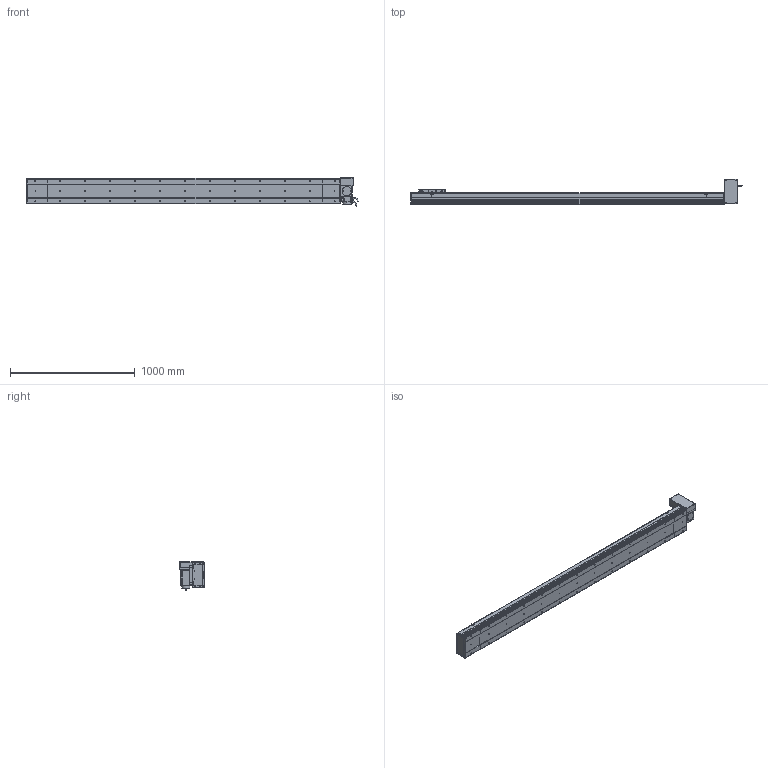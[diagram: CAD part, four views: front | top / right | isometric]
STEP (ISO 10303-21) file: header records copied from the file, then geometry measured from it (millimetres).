
FILE_DESCRIPTION (( 'STEP AP214' ), '1' );
FILE_NAME ('D20 CBH LT S2200.STEP', '2010-06-30T10:05:02', ( 'Conseil Régional Haute-Normandie' ), ( 'Conseil Régional Haute-Normandie' ), 'SwSTEP 2.0', 'SolidWorks 2010', '' );
FILE_SCHEMA (( 'AUTOMOTIVE_DESIGN' ));
Length unit declared in the file: millimetre
Products named in the file (31): Conecteur_Default; Moteur motionking 90BLDC125A-640; avant 90BLDC125A-640; codeur 90BLDC125-640; Conecteur2_Default; corps 90BLDC125A-640; Tail D20_Default; Glissiere_Default; Cache Support Moteur LT_Default; vis M5 L47_Default; Couvercle S2200_Default; Corp S2200_Default; ecrou_Default; Chariot D20_Default; vis M5 L15_Default; Plaque De Serrage D20_Default; vis M5 L30_Default; Plaque de Bout Tail D20_Default; Couvercle_Default; Corp Tail D20_Default; Support Chariot D20_Default; Corp D20 S2200_Default; Support moteur LT_Default; Couvercle LT_Default; Corp Tail D20 LT_Default; Plaque de Bout Head D20 LT_Default; Plaque De Serrage D20 LT_Default; Rondelle Cache D20 LT_Default; Head LT_Default; D20 CBH LT S2200
Assembly tree (66 placements, depth 4):
  D20 CBH LT S2200
    Tail D20_Default
      Corp Tail D20_Default
      vis M5 L15_Default  x6
      Plaque De Serrage D20_Default
      Couvercle_Default
      Plaque de Bout Tail D20_Default
    Corp D20 S2200_Default
      Corp S2200_Default
      Couvercle S2200_Default
    Head LT_Default
      vis M5 L30_Default  x4
      ecrou_Default  x4
      vis M5 L47_Default  x4
      vis M5 L15_Default  x12
      Couvercle LT_Default
      Cache Support Moteur LT_Default
      Rondelle Cache D20 LT_Default  x3
      Support moteur LT_Default
      Moteur motionking 90BLDC125A-640
        Conecteur2_Default
        corps 90BLDC125A-640
        Conecteur_Default
        avant 90BLDC125A-640
        codeur 90BLDC125-640
      Corp Tail D20 LT_Default
      Plaque de Bout Head D20 LT_Default
      Plaque De Serrage D20 LT_Default
    Chariot D20_Default
      vis M5 L15_Default  x8
      Support Chariot D20_Default
      Chariot D20_Default
      Glissiere_Default
Bounding box: 2663.45 x 202.5 x 229.7 mm (x, y, z)
Volume: 18111001 mm3; surface area: 3539901.6 mm2
Topology: 103 solids, 103 shells, 3792 faces, 9494 edges, 6172 vertices
Faces by surface type: plane 2101, bspline 806, cylinder 722, torus 91, cone 68, sphere 4
Entity records: 161110 total; most frequent: CARTESIAN_POINT 83302, ORIENTED_EDGE 15456, DIRECTION 11712, EDGE_CURVE 7728, VERTEX_POINT 5116, LINE 4952, VECTOR 4952, AXIS2_PLACEMENT_3D 3380
